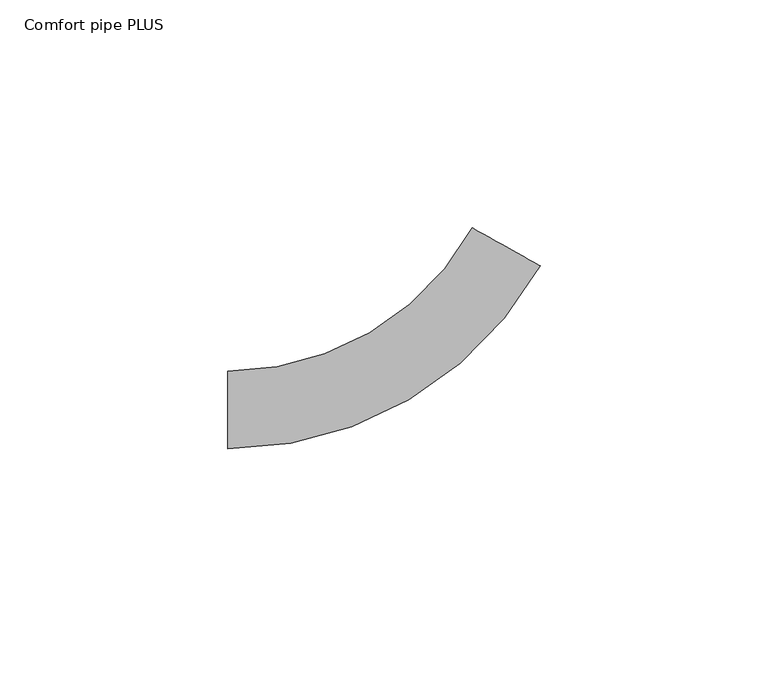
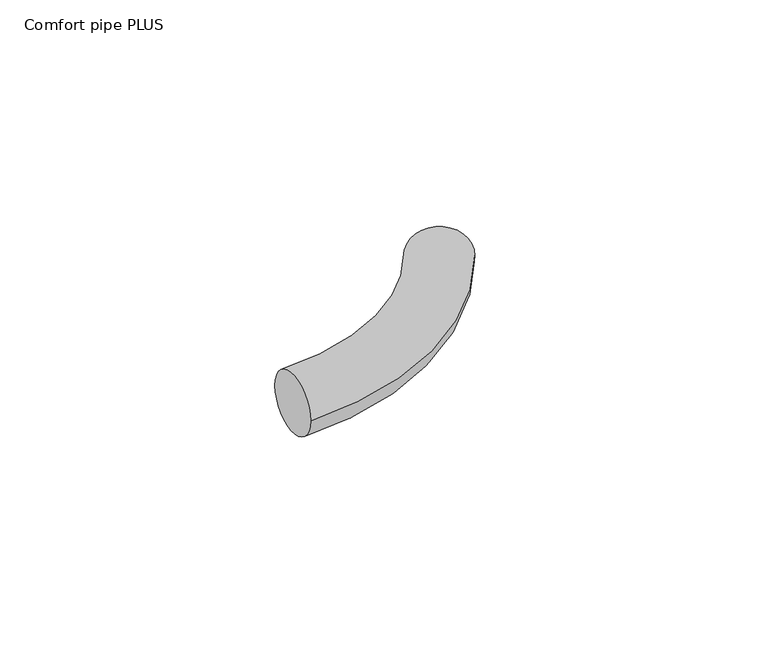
"""IFC4 building model written with IfcOpenShell, lengths in millimetres: pipe fitting geometry, 400_5-_Uponor_curved_Elbow : Comfort pipe PLUS."""

from ifc_helpers import new_model, si_unit, point, frame, origin, place, context, project, spatial, circle_curve, ellipse_curve, trimmed, source, transform, mapped, element, save
from ifc_brep_helpers import plane_surface, revolved_surface, advanced_brep


def comfort_pipe_plus_ba31a987(model_context):
    return source(origin(), model_context, "Body", "AdvancedBrep", [
        advanced_brep(
        [(-40.9721773, -8.5, 0.0), (-40.9721773, 8.5, 0.0), (27.4733981, 31.5623465, 0.0), (12.6507894, 39.8864243, 0.0)],
        [
            (0, 1, circle_curve(frame((-40.9721773, 0.0, 0.0), z_axis=(-1.0, 0.0, 0.0), x_axis=(0.0, 1.0, 0.0)), 8.5)),
            (1, 0, circle_curve(frame((-40.9721773, 0.0, 0.0), z_axis=(-1.0, 0.0, 0.0), x_axis=(0.0, 1.0, 0.0)), 8.5)),
            (2, 3, circle_curve(frame((20.0620937, 35.7243854, 0.0), z_axis=(0.48965163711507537, 0.8719181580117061, 0.0), x_axis=(-0.8719181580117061, 0.48965163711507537, 0.0)), 8.5)),
            (3, 2, circle_curve(frame((20.0620937, 35.7243854, 0.0), z_axis=(0.48965163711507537, 0.8719181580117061, 0.0), x_axis=(-0.8719181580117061, 0.48965163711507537, 0.0)), 8.5)),
            (3, 1, circle_curve(frame((-40.9721773, 70.0, 0.0), z_axis=(0.0, 0.0, -1.0), x_axis=(0.0, -1.0, 0.0)), 61.5)),
            (0, 2, circle_curve(frame((-40.9721773, 70.0, 0.0), z_axis=(0.0, 0.0, 1.0), x_axis=(0.0, -1.0, 0.0)), 78.5)),
        ],
        [
            plane_surface(frame((-40.9721773, 0.0, 0.0), z_axis=(-1.0, 0.0, 0.0), x_axis=(0.0, 0.0, 1.0))),
            plane_surface(frame((20.0620937, 35.7243854, 0.0), z_axis=(0.4896516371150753, 0.8719181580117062, 0.0), x_axis=(0.0, 0.0, 1.0))),
            revolved_surface(trimmed(ellipse_curve(frame((-40.9721773, 0.0, 0.0), z_axis=(-1.0, 0.0, 0.0), x_axis=(0.0, 1.0, 0.0)), 8.5, 8.5), [point((-40.9721773, -8.5, 0.0))], [point((-40.9721773, 8.5, 0.0))], True, "CARTESIAN"), (-40.9721773, 70.0, 0.0), (0.0, 0.0, 1.0)),
            revolved_surface(trimmed(ellipse_curve(frame((-40.9721773, 0.0, 0.0), z_axis=(-1.0, 0.0, 0.0), x_axis=(0.0, 1.0, 0.0)), 8.5, 8.5), [point((-40.9721773, 8.5, 0.0))], [point((-40.9721773, -8.5, 0.0))], True, "CARTESIAN"), (-40.9721773, 70.0, 0.0), (0.0, 0.0, 1.0)),
        ],
        [
            (0, [[1, 2]]),
            (1, [[3, 4]]),
            (2, [[5, -1, 6, -4]]),
            (3, [[-6, -2, -5, -3]]),
        ],
    ),
    ])


if __name__ == "__main__":
    model = new_model("IFC4")
    model_context = context("Model", 3, world=origin())
    ifc_project = project(units=[si_unit("LENGTHUNIT", "METRE", prefix="MILLI")], contexts=[model_context])
    site = spatial("IfcSite", under=ifc_project)
    building = spatial("IfcBuilding", under=site)
    placement = place(None, origin())
    comfort_pipe_plus_shape = comfort_pipe_plus_ba31a987(model_context)
    element("IfcPipeFitting", 1, ObjectType="400_5-_Uponor_curved_Elbow : Comfort pipe PLUS", at=placement, inside=building, context=model_context, shape_type="MappedRepresentation", body=[
        mapped(comfort_pipe_plus_shape, transform((0.0, 0.0, 0.0), x_axis=(1.0, 0.0, 0.0), y_axis=(0.0, 1.0, 0.0), z_axis=(0.0, 0.0, 1.0))),
    ])
    save(model, "model.ifc")
